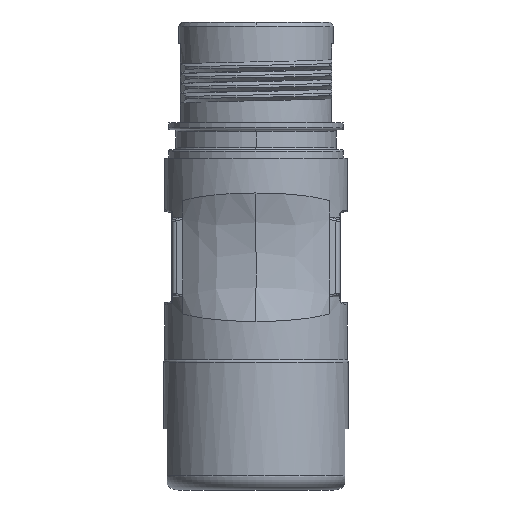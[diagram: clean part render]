
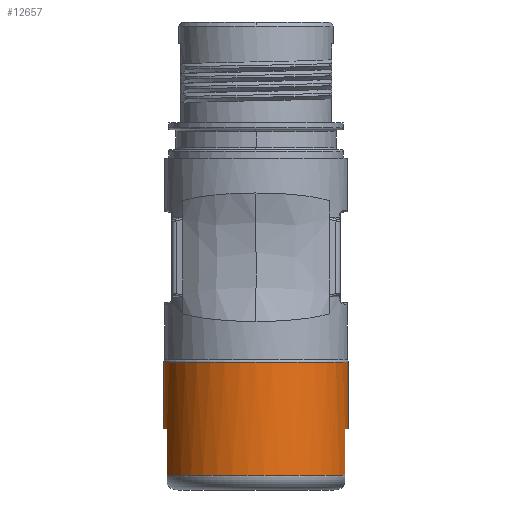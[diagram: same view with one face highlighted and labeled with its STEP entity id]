
A CAD part, front view. The second image highlights one B-rep face of the part: STEP entity #12657.
In plain terms, the highlighted cylindrical face has radius 9.35 mm (diameter 18.7 mm), a partial arc.
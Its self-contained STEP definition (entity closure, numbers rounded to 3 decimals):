
#1938=DIRECTION('',(0.,0.,-1.));
#1939=VECTOR('',#1938,6.7);
#1940=CARTESIAN_POINT('',(-9.35,0.,-20.65));
#1941=LINE('',#1940,#1939);
#1965=DIRECTION('',(0.,0.,-1.));
#1966=VECTOR('',#1965,6.7);
#1967=CARTESIAN_POINT('',(9.35,0.,-20.65));
#1968=LINE('',#1967,#1966);
#1969=CARTESIAN_POINT('',(0.,0.,-20.65));
#1970=DIRECTION('',(0.,0.,-1.));
#1971=DIRECTION('',(1.,0.,0.));
#1972=AXIS2_PLACEMENT_3D('',#1969,#1970,#1971);
#1974=CARTESIAN_POINT('',(0.,0.,-27.35));
#1975=DIRECTION('',(0.,0.,-1.));
#1976=DIRECTION('',(1.,0.,0.));
#1977=AXIS2_PLACEMENT_3D('',#1974,#1975,#1976);
#1979=DIRECTION('',(0.,0.,-1.));
#1980=VECTOR('',#1979,4.7);
#1981=CARTESIAN_POINT('',(9.,-2.534,-27.35));
#1982=LINE('',#1981,#1980);
#1983=CARTESIAN_POINT('',(0.,0.,-32.05));
#1984=DIRECTION('',(0.,0.,-1.));
#1985=DIRECTION('',(0.963,-0.271,0.));
#1986=AXIS2_PLACEMENT_3D('',#1983,#1984,#1985);
#1988=DIRECTION('',(0.,0.,-1.));
#1989=VECTOR('',#1988,4.7);
#1990=CARTESIAN_POINT('',(-9.,-2.534,-27.35));
#1991=LINE('',#1990,#1989);
#1992=CARTESIAN_POINT('',(0.,0.,-27.35));
#1993=DIRECTION('',(0.,0.,-1.));
#1994=DIRECTION('',(-0.963,-0.271,0.));
#1995=AXIS2_PLACEMENT_3D('',#1992,#1993,#1994);
#9661=CARTESIAN_POINT('',(9.,-2.534,-27.35));
#9662=CARTESIAN_POINT('',(9.,-2.534,-32.05));
#9663=VERTEX_POINT('',#9661);
#9664=VERTEX_POINT('',#9662);
#9665=CARTESIAN_POINT('',(9.35,0.,-27.35));
#9666=VERTEX_POINT('',#9665);
#9667=CARTESIAN_POINT('',(-9.,-2.534,-27.35));
#9668=CARTESIAN_POINT('',(-9.35,0.,-27.35));
#9669=VERTEX_POINT('',#9667);
#9670=VERTEX_POINT('',#9668);
#9671=CARTESIAN_POINT('',(-9.,-2.534,-32.05));
#9672=VERTEX_POINT('',#9671);
#9683=CARTESIAN_POINT('',(-9.35,0.,-20.65));
#9684=CARTESIAN_POINT('',(9.35,0.,-20.65));
#9685=VERTEX_POINT('',#9683);
#9686=VERTEX_POINT('',#9684);
#12637=CARTESIAN_POINT('',(0.,0.,-19.69));
#12638=DIRECTION('',(0.,0.,-1.));
#12639=DIRECTION('',(1.,0.,0.));
#12640=AXIS2_PLACEMENT_3D('',#12637,#12638,#12639);
#12641=CYLINDRICAL_SURFACE('',#12640,9.35);
#12642=ORIENTED_EDGE('',*,*,#12594,.F.);
#12643=ORIENTED_EDGE('',*,*,#12632,.T.);
#12645=ORIENTED_EDGE('',*,*,#12644,.T.);
#12647=ORIENTED_EDGE('',*,*,#12646,.T.);
#12649=ORIENTED_EDGE('',*,*,#12648,.T.);
#12651=ORIENTED_EDGE('',*,*,#12650,.F.);
#12653=ORIENTED_EDGE('',*,*,#12652,.T.);
#12654=ORIENTED_EDGE('',*,*,#12620,.F.);
#12655=EDGE_LOOP('',(#12642,#12643,#12645,#12647,#12649,#12651,#12653,#12654));
#12656=FACE_OUTER_BOUND('',#12655,.F.);
#1973=CIRCLE('',#1972,9.35);
#1978=CIRCLE('',#1977,9.35);
#1987=CIRCLE('',#1986,9.35);
#1996=CIRCLE('',#1995,9.35);
#12594=EDGE_CURVE('',#9686,#9685,#1973,.T.);
#12620=EDGE_CURVE('',#9685,#9670,#1941,.T.);
#12632=EDGE_CURVE('',#9686,#9666,#1968,.T.);
#12644=EDGE_CURVE('',#9666,#9663,#1978,.T.);
#12646=EDGE_CURVE('',#9663,#9664,#1982,.T.);
#12648=EDGE_CURVE('',#9664,#9672,#1987,.T.);
#12650=EDGE_CURVE('',#9669,#9672,#1991,.T.);
#12652=EDGE_CURVE('',#9669,#9670,#1996,.T.);
#12657=ADVANCED_FACE('',(#12656),#12641,.T.);
